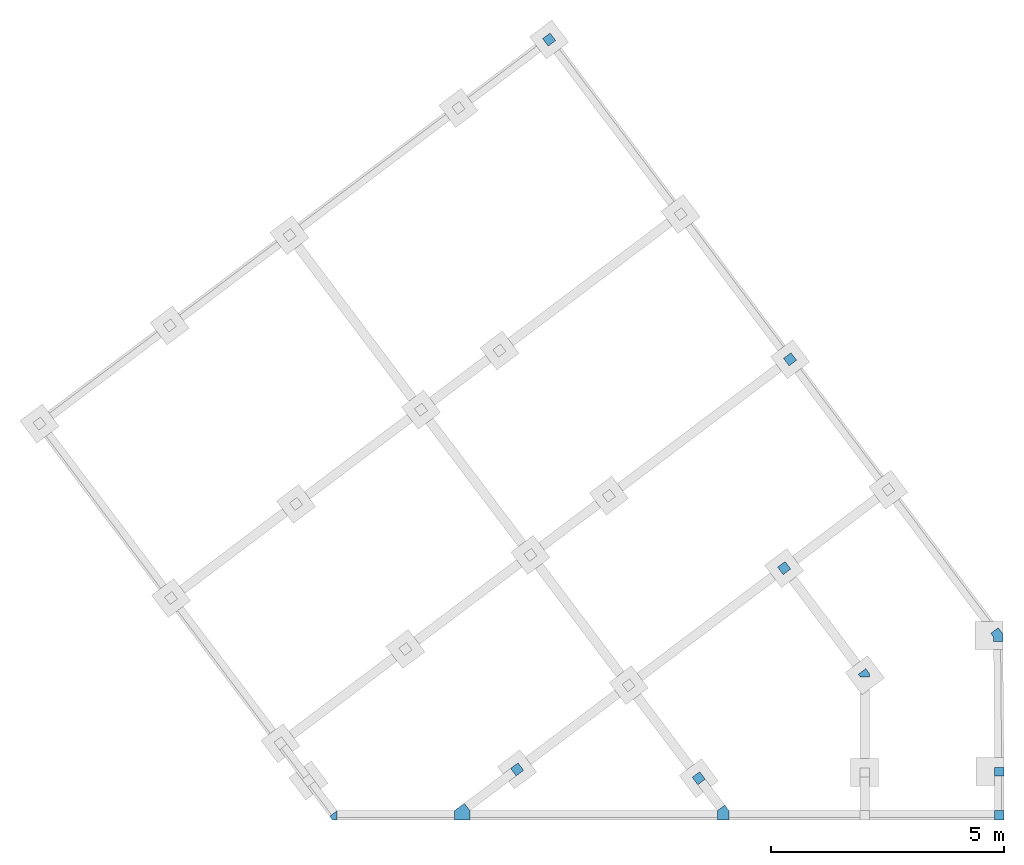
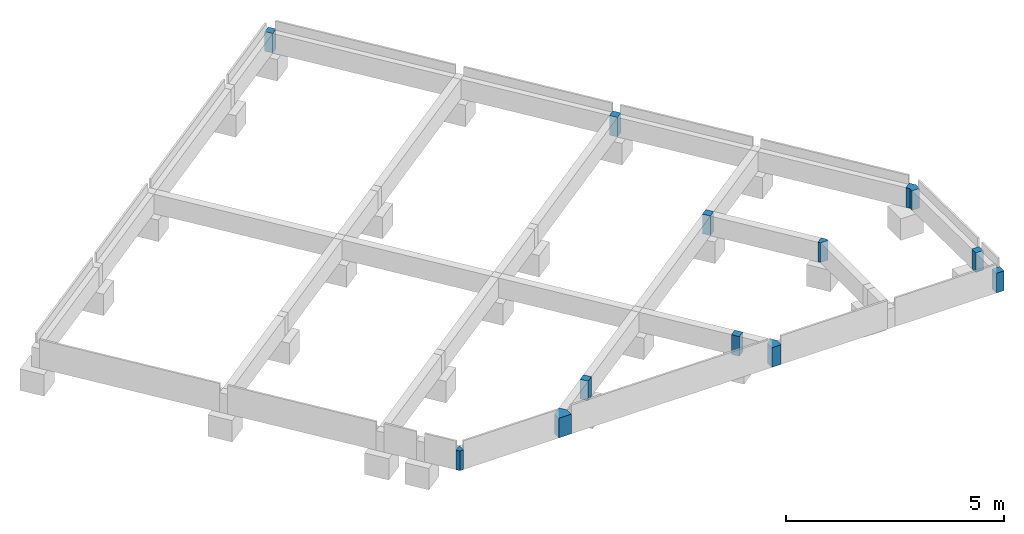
# One storey, part 2 of 2: 12 slabs.
"""IFC2X3 building model written with IfcOpenShell, lengths in millimetres."""

from ifc_helpers import new_model, entity, si_unit, converted_unit, money_unit, direction, frame, origin_with_axes, place, context, subcontext, project, spatial, faceted_brep, source, transform, mapped, material, type_object, element, save


model = new_model("IFC2X3")

# Units and contexts
model_context = context("Model", 3, precision=1e-05, world=origin_with_axes(), true_north=direction((0.0, 1.0)))
body_context = subcontext(model_context, "Body", "Model", "MODEL_VIEW")
ifc_project = project(units=[si_unit("LENGTHUNIT", "METRE", prefix="MILLI"), si_unit("AREAUNIT", "SQUARE_METRE"), si_unit("VOLUMEUNIT", "CUBIC_METRE"), converted_unit("PLANEANGLEUNIT", "DEGREE", entity("IfcPlaneAngleMeasure", 0.0174532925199), si_unit("PLANEANGLEUNIT", "RADIAN"), dimensions=[0, 0, 0, 0, 0, 0, 0]), si_unit("SOLIDANGLEUNIT", "STERADIAN"), money_unit("EUR"), converted_unit("TIMEUNIT", "Year", entity("IfcTimeMeasure", 31556926.0), si_unit("TIMEUNIT", "SECOND"), dimensions=[0, 0, 0, 0, 0, 0, 0]), si_unit("MASSUNIT", "GRAM"), si_unit("THERMODYNAMICTEMPERATUREUNIT", "DEGREE_CELSIUS"), si_unit("LUMINOUSINTENSITYUNIT", "LUMEN")], contexts=[model_context])

# Site, building, storey
site_placement = place(None, origin_with_axes())
site = spatial("IfcSite", under=ifc_project, at=site_placement, Name="Default Site", CompositionType="ELEMENT")
building_placement = place(site_placement, origin_with_axes())
building = spatial("IfcBuilding", under=site, at=building_placement, Name="Default Building", CompositionType="ELEMENT")
storey_placement = place(building_placement, frame((0.0, 0.0, -1600.0), z_axis=(0.0, 0.0, 1.0), x_axis=(1.0, 0.0, 0.0)))
storey = spatial("IfcBuildingStorey", under=building, at=storey_placement, Name="FONDATIONS SUPERFICIELLES", CompositionType="ELEMENT", Elevation=-1600.0)

# Slabs
ifc_material = material(Name="Struct. - B.A. coulé")
slab_type = type_object("IfcSlabType", Name="Struct. - B.A. coulé", PredefinedType="NOTDEFINED")
slab_1_placement = place(storey_placement, frame((30445.8856297, 27128.1315706, 4550.0), z_axis=(0.0, 0.0, 1.0), x_axis=(1.0, 0.0, 0.0)))
element("IfcSlab", 1, at=slab_1_placement, inside=storey, type_object=slab_type, material=ifc_material, Name="Clav-024", PredefinedType="FLOOR", context=body_context, shape_type="Brep", body=[
    faceted_brep([(-459.301484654, -7833.579814, 0.0), (-459.301484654, -7833.579814, 550.0), (-499.346537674, -7780.43823426, 550.0), (-499.346537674, -7780.43823426, 0.0), (-259.301481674, -7833.579814, 0.0), (-259.301481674, -7833.579814, 550.0), (-259.301481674, -7766.6607496, 550.0), (-339.619433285, -7660.07522783, 550.0), (-339.619433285, -7660.07522783, 0.0), (-259.301481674, -7766.6607496, 0.0)], [[[0, 1, 2, 3]], [[1, 0, 4, 5]], [[2, 1, 5, 6, 7]], [[3, 2, 7, 8]], [[0, 3, 8, 9, 4]], [[5, 4, 9, 6]], [[6, 9, 8, 7]]]),
])
slab_2_placement = place(storey_placement, frame((28632.9422252, 29600.9077893, 4550.0), z_axis=(0.0, 0.0, 1.0), x_axis=(1.0, 0.0, 0.0)))
element("IfcSlab", 2, at=slab_2_placement, inside=storey, type_object=slab_type, material=ifc_material, Name="Clav-021", PredefinedType="FLOOR", context=body_context, shape_type="Brep", body=[
    faceted_brep([(-419.028583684, -7953.94281863, -1.08372155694e-06), (-298.665579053, -8113.66992064, 0.0), (-298.66558114, -8113.66992035, 549.999999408), (-419.02858577, -7953.94281834, 549.999999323), (-259.301481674, -7833.579814, 0.0), (-138.93847525, -7993.30691839, 0.0), (-138.938477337, -7993.3069181, 549.999999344), (-259.301483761, -7833.57981371, 549.999999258)], [[[0, 1, 2, 3]], [[1, 0, 4, 5]], [[6, 2, 1, 5]], [[3, 2, 6, 7]], [[0, 3, 7, 4]], [[4, 7, 6, 5]]]),
])
slab_3_placement = place(storey_placement, frame((33133.5530008, 24251.6389984, 5100.0), z_axis=(0.0, 0.0, 1.0), x_axis=(1.0, 0.0, 0.0)))
element("IfcSlab", 3, at=slab_3_placement, inside=storey, type_object=slab_type, material=ifc_material, Name="Clav-030", PredefinedType="FLOOR", context=body_context, shape_type="Brep", body=[
    faceted_brep([(-259.30148249, -8033.57981244, -550.0), (-259.301481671, -8033.57981325, -5.96047655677e-07), (-259.301481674, -7833.579814, 0.0), (-259.301482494, -7833.57981318, -549.999999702), (-59.3014832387, -8033.57981244, -550.0), (-59.3014824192, -8033.57981325, -5.96047655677e-07), (-59.3014824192, -7833.579814, -5.96047655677e-07), (-59.3014832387, -7833.57981318, -549.999999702)], [[[0, 1, 2, 3]], [[1, 0, 4, 5]], [[2, 1, 5, 6]], [[3, 2, 6, 7]], [[0, 3, 7, 4]], [[5, 4, 7, 6]]]),
])
slab_4_placement = place(storey_placement, frame((27179.5512049, 24051.6389984, 4550.0), z_axis=(0.0, 0.0, 1.0), x_axis=(1.0, 0.0, 0.0)))
element("IfcSlab", 4, at=slab_4_placement, inside=storey, type_object=slab_type, material=ifc_material, Name="Clav-026", PredefinedType="FLOOR", context=body_context, shape_type="Brep", body=[
    faceted_brep([(-259.301481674, -7833.579814, 0.0), (-259.301481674, -7833.579814, 550.0), (-259.301484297, -7633.579813, 550.0), (-259.301484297, -7633.579813, 0.0), (-8.87434994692, -7833.57981698, 0.0), (-8.87434994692, -7833.57981698, 550.0), (-8.87435013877, -7633.579814, 550.0), (-99.574379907, -7513.21680657, 550.0), (-99.574379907, -7513.21680657, 0.0), (-8.87435013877, -7633.579814, 0.0)], [[[0, 1, 2, 3]], [[1, 0, 4, 5]], [[2, 1, 5, 6, 7]], [[3, 2, 7, 8]], [[0, 3, 8, 9, 4]], [[4, 9, 6, 5]], [[6, 9, 8, 7]]]),
])
slab_5_placement = place(storey_placement, frame((33333.5530008, 24995.6363261, 4550.0), z_axis=(0.0, 0.0, 1.0), x_axis=(1.0, 0.0, 0.0)))
element("IfcSlab", 5, at=slab_5_placement, inside=storey, type_object=slab_type, material=ifc_material, Name="Clav-028", PredefinedType="FLOOR", context=body_context, shape_type="Brep", body=[
    faceted_brep([(-459.178851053, -7647.98476542, 0.0), (-459.301484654, -7833.579814, 0.0), (-459.301484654, -7833.579814, 550.0), (-459.178851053, -7647.98476542, 550.0), (-259.186558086, -7646.22864866, 0.0), (-259.301481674, -7833.579814, 0.0), (-259.301481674, -7833.579814, 550.0), (-259.186558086, -7646.22864866, 550.0)], [[[0, 1, 2, 3]], [[1, 0, 4, 5]], [[2, 1, 5, 6]], [[3, 2, 6, 7]], [[0, 3, 7, 4]], [[6, 5, 4, 7]]]),
])
slab_6_placement = place(storey_placement, frame((21534.2227793, 24051.6389984, 4550.0), z_axis=(0.0, 0.0, 1.0), x_axis=(1.0, 0.0, 0.0)))
element("IfcSlab", 6, at=slab_6_placement, inside=storey, type_object=slab_type, material=ifc_material, Name="Clav-018", PredefinedType="FLOOR", context=body_context, shape_type="Brep", body=[
    faceted_brep([(-259.301481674, -7833.579814, 0.0), (-259.301481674, -7833.579814, 550.0), (-259.301481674, -7633.57981102, 550.0), (-259.301481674, -7633.57981102, 0.0), (73.0265465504, -7833.579814, 0.0), (73.0265465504, -7833.579814, 550.0), (73.0265465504, -7633.57981102, 550.0), (-47.3364575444, -7473.85270972, 550.0), (-47.3364575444, -7473.85270972, 0.0), (73.0265465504, -7633.57981102, 0.0)], [[[0, 1, 2, 3]], [[1, 0, 4, 5]], [[2, 1, 5, 6, 7]], [[3, 2, 7, 8]], [[3, 8, 9, 4, 0]], [[4, 9, 6, 5]], [[8, 7, 6, 9]]]),
])
slab_7_placement = place(storey_placement, frame((26919.5463578, 24929.0051151, 4550.0), z_axis=(0.0, 0.0, 1.0), x_axis=(1.0, 0.0, 0.0)))
element("IfcSlab", 7, at=slab_7_placement, inside=storey, type_object=slab_type, material=ifc_material, Name="Clav-023", PredefinedType="FLOOR", context=body_context, shape_type="Brep", body=[
    faceted_brep([(-419.028586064, -7953.94282042, 550.0), (-539.391590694, -7794.21571841, 550.0), (-539.391590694, -7794.21571841, 0.0), (-419.028586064, -7953.94282042, 0.0), (-259.301481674, -7833.579814, 550.0), (-379.664486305, -7673.85271199, 550.0), (-379.664486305, -7673.85271199, 0.0), (-259.301481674, -7833.579814, 0.0)], [[[0, 1, 2, 3]], [[1, 0, 4, 5]], [[2, 1, 5, 6]], [[3, 2, 6, 7]], [[4, 0, 3, 7]], [[4, 7, 6, 5]]]),
])
slab_8_placement = place(storey_placement, frame((33109.9680556, 27881.1272895, 4550.0), z_axis=(0.0, 0.0, 1.0), x_axis=(1.0, 0.0, 0.0)))
element("IfcSlab", 8, at=slab_8_placement, inside=storey, type_object=slab_type, material=ifc_material, Name="Clav-025", PredefinedType="FLOOR", context=body_context, shape_type="Brep", body=[
    faceted_brep([(-260.179540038, -7733.58366901, 550.0), (-320.333763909, -7653.75631772, 550.0), (-320.333763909, -7653.75631772, 0.0), (-260.179540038, -7733.58366901, 0.0), (-259.301481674, -7833.579814, 550.0), (-59.3091887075, -7831.82369725, 550.0), (-60.7662772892, -7665.88597748, 550.0), (-160.606659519, -7533.3933113, 550.0), (-160.606659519, -7533.3933113, 0.0), (-259.301481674, -7833.579814, 0.0), (-60.7662772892, -7665.88597748, 0.0), (-59.3091887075, -7831.82369725, 0.0)], [[[0, 1, 2, 3]], [[0, 4, 5, 6, 7, 1]], [[2, 1, 7, 8]], [[9, 3, 2, 8, 10, 11]], [[3, 9, 4, 0]], [[9, 11, 5, 4]], [[10, 6, 5, 11]], [[6, 10, 8, 7]]]),
])
slab_9_placement = place(storey_placement, frame((18855.8996095, 24131.2759973, 4550.0), z_axis=(0.0, 0.0, 1.0), x_axis=(1.0, 0.0, 0.0)))
element("IfcSlab", 9, at=slab_9_placement, inside=storey, type_object=slab_type, material=ifc_material, Name="Clav-017", PredefinedType="FLOOR", context=body_context, shape_type="Brep", body=[
    faceted_brep([(-259.301481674, -7833.579814, 0.0), (-199.290698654, -7913.21680889, 0.0), (-199.290698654, -7913.21680889, 550.0), (-259.301481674, -7833.579814, 550.0), (-99.5743782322, -7713.21680829, 0.0), (-99.5743782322, -7913.21681127, 0.0), (-99.5743782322, -7913.21681127, 550.0), (-99.5743782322, -7713.21680829, 550.0)], [[[0, 1, 2, 3]], [[1, 0, 4, 5]], [[1, 5, 6, 2]], [[3, 2, 6, 7]], [[0, 3, 7, 4]], [[5, 4, 7, 6]]]),
])
slab_10_placement = place(storey_placement, frame((22859.3751675, 24999.7858141, 4550.0), z_axis=(0.0, 0.0, 1.0), x_axis=(1.0, 0.0, 0.0)))
element("IfcSlab", 10, at=slab_10_placement, inside=storey, type_object=slab_type, material=ifc_material, Name="Clav-019", PredefinedType="FLOOR", context=body_context, shape_type="Brep", body=[
    faceted_brep([(-259.301481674, -7833.579814, 550.0), (-379.664488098, -7673.85270961, 550.0), (-379.664488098, -7673.85270961, 0.0), (-259.301481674, -7833.579814, 0.0), (-99.5743796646, -7713.21680937, 550.0), (-219.937386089, -7553.48970498, 550.0), (-219.937386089, -7553.48970498, 0.0), (-99.5743796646, -7713.21680937, 0.0)], [[[0, 1, 2, 3]], [[1, 0, 4, 5]], [[2, 1, 5, 6]], [[3, 2, 6, 7]], [[4, 0, 3, 7]], [[4, 7, 6, 5]]]),
])
shared_shape = source(origin_with_axes(), body_context, "Body", "Brep", [
    faceted_brep([(-419.028583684, -7953.94281863, -1.08372155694e-06), (-298.665579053, -8113.66992064, 0.0), (-298.66558114, -8113.66992035, 549.999999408), (-419.02858577, -7953.94281834, 549.999999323), (-259.301481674, -7833.579814, 0.0), (-138.93847525, -7993.30691839, 0.0), (-138.938477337, -7993.3069181, 549.999999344), (-259.301483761, -7833.57981371, 549.999999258)], [[[0, 1, 2, 3]], [[1, 0, 4, 5]], [[6, 2, 1, 5]], [[3, 2, 6, 7]], [[0, 3, 7, 4]], [[4, 7, 6, 5]]]),
])
for number, where, z_axis, x_axis, name in (
    (11, (28759.7599981, 34085.2073157, 4550.0), (0.0, 0.0, 1.0), (1.0, 0.0, 0.0), "Clav-015"),
    (12, (23587.1598741, 40949.4795245, 4550.00000108), (0.0, 0.0, 1.0), (1.0, 0.0, 0.0), "Clav-005"),
):
    element("IfcSlab", number, at=place(storey_placement, frame(where, z_axis=z_axis, x_axis=x_axis)), inside=storey, type_object=slab_type, material=ifc_material, Name=name, PredefinedType="FLOOR", context=body_context, shape_type="MappedRepresentation", body=[
        mapped(shared_shape, transform((0.0, 0.0, 0.0))),
    ])

save(model, "model.ifc")
